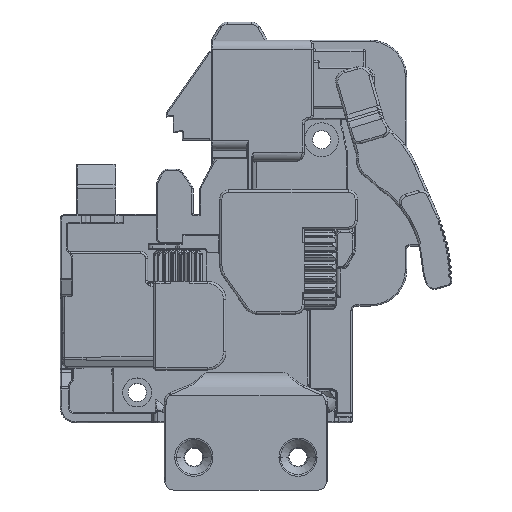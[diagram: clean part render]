
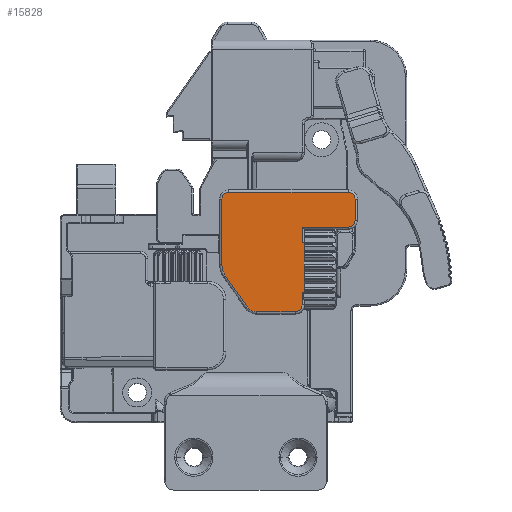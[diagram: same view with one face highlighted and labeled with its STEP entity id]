
A CAD part, top view. The second image highlights one B-rep face of the part: STEP entity #15828.
In plain terms, the highlighted planar face has unit normal (0, 0, 1).
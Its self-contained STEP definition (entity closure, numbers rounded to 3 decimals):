
#324 = CARTESIAN_POINT ( 'NONE',  ( 51.9, 44.2, 18.3 ) ) ;
#646 = CARTESIAN_POINT ( 'NONE',  ( 63.6, 44.2, 18.3 ) ) ;
#2804 = VERTEX_POINT ( 'NONE', #46445 ) ;
#3865 = AXIS2_PLACEMENT_3D ( 'NONE', #21544, #58885, #26938 ) ;
#4117 = EDGE_CURVE ( 'NONE', #28852, #48893, #52032, .T. ) ;
#4457 = DIRECTION ( 'NONE',  ( 0., -1., 0. ) ) ;
#5001 = CARTESIAN_POINT ( 'NONE',  ( 62.1, 44.2, 18.3 ) ) ;
#5032 = ORIENTED_EDGE ( 'NONE', *, *, #66872, .T. ) ;
#5303 = CARTESIAN_POINT ( 'NONE',  ( 34.2, 34.476, 18.3 ) ) ;
#6358 = CARTESIAN_POINT ( 'NONE',  ( 41.844, 24., 18.3 ) ) ;
#7007 = DIRECTION ( 'NONE',  ( 1., 0., 0. ) ) ;
#7495 = ORIENTED_EDGE ( 'NONE', *, *, #16617, .T. ) ;
#8703 = DIRECTION ( 'NONE',  ( 0.574, -0.819, 0. ) ) ;
#9606 = ORIENTED_EDGE ( 'NONE', *, *, #36229, .T. ) ;
#10038 = DIRECTION ( 'NONE',  ( 1., 0., 0. ) ) ;
#10274 = CARTESIAN_POINT ( 'NONE',  ( 62.1, 50.4, 18.3 ) ) ;
#12461 = EDGE_CURVE ( 'NONE', #48134, #2804, #65715, .T. ) ;
#12560 = CARTESIAN_POINT ( 'NONE',  ( 51.9, 28.301, 18.3 ) ) ;
#12738 = VERTEX_POINT ( 'NONE', #61855 ) ;
#12792 = DIRECTION ( 'NONE',  ( 1., 0., 0. ) ) ;
#13456 = VECTOR ( 'NONE', #30330, 1000. ) ;
#13492 = CARTESIAN_POINT ( 'NONE',  ( 63.6, 48.9, 18.3 ) ) ;
#13872 = VECTOR ( 'NONE', #53894, 1000. ) ;
#14232 = EDGE_CURVE ( 'NONE', #53457, #57295, #14526, .T. ) ;
#14526 = LINE ( 'NONE', #12560, #41309 ) ;
#15083 = VERTEX_POINT ( 'NONE', #34600 ) ;
#15093 = CARTESIAN_POINT ( 'NONE',  ( 51.9, 28.301, 18.3 ) ) ;
#15132 = LINE ( 'NONE', #40848, #13456 ) ;
#15525 = DIRECTION ( 'NONE',  ( -1., 0., 0. ) ) ;
#15828 = ADVANCED_FACE ( 'NONE', ( #47816 ), #37049, .T. ) ;
#15979 = CARTESIAN_POINT ( 'NONE',  ( 50.4, 24., 18.3 ) ) ;
#16511 = CARTESIAN_POINT ( 'NONE',  ( 35.7, 48.9, 18.3 ) ) ;
#16617 = EDGE_CURVE ( 'NONE', #25717, #37748, #17728, .T. ) ;
#17359 = VECTOR ( 'NONE', #10038, 1000. ) ;
#17728 = CIRCLE ( 'NONE', #3865, 1.5 ) ;
#17904 = AXIS2_PLACEMENT_3D ( 'NONE', #16511, #53893, #21881 ) ;
#18000 = DIRECTION ( 'NONE',  ( 0., 0., 1. ) ) ;
#18554 = AXIS2_PLACEMENT_3D ( 'NONE', #50026, #18000, #55374 ) ;
#19190 = ORIENTED_EDGE ( 'NONE', *, *, #14232, .T. ) ;
#19224 = EDGE_CURVE ( 'NONE', #64180, #28852, #37503, .T. ) ;
#19358 = EDGE_LOOP ( 'NONE', ( #9606, #36018, #30989, #5032, #26164, #49626, #22937, #43153, #26988, #66523, #45913, #61391, #63612, #50537, #7495, #30915, #19190 ) ) ;
#19535 = VECTOR ( 'NONE', #27796, 1000. ) ;
#19644 = CARTESIAN_POINT ( 'NONE',  ( 41.844, 26.5, 18.3 ) ) ;
#20791 = EDGE_CURVE ( 'NONE', #37748, #53457, #33189, .T. ) ;
#20911 = CARTESIAN_POINT ( 'NONE',  ( 50.138, 39.216, 18.3 ) ) ;
#21159 = VERTEX_POINT ( 'NONE', #40742 ) ;
#21166 = DIRECTION ( 'NONE',  ( 0., 0., 1. ) ) ;
#21544 = CARTESIAN_POINT ( 'NONE',  ( 50.4, 25.5, 18.3 ) ) ;
#21881 = DIRECTION ( 'NONE',  ( 1., 0., 0. ) ) ;
#22937 = ORIENTED_EDGE ( 'NONE', *, *, #50458, .T. ) ;
#23145 = CARTESIAN_POINT ( 'NONE',  ( 62.1, 42.7, 18.3 ) ) ;
#23293 = VECTOR ( 'NONE', #4457, 1000. ) ;
#23335 = AXIS2_PLACEMENT_3D ( 'NONE', #63742, #31811, #69134 ) ;
#24706 = VECTOR ( 'NONE', #58364, 1000. ) ;
#25015 = DIRECTION ( 'NONE',  ( 1., 0., 0. ) ) ;
#25561 = LINE ( 'NONE', #20911, #38133 ) ;
#25717 = VERTEX_POINT ( 'NONE', #15979 ) ;
#25776 = CARTESIAN_POINT ( 'NONE',  ( 34.2, 44.2, 18.3 ) ) ;
#26164 = ORIENTED_EDGE ( 'NONE', *, *, #66155, .T. ) ;
#26551 = VECTOR ( 'NONE', #8703, 1000. ) ;
#26938 = DIRECTION ( 'NONE',  ( 1., 0., 0. ) ) ;
#26988 = ORIENTED_EDGE ( 'NONE', *, *, #41448, .T. ) ;
#27796 = DIRECTION ( 'NONE',  ( 0., 1., 0. ) ) ;
#28852 = VERTEX_POINT ( 'NONE', #5303 ) ;
#30321 = VERTEX_POINT ( 'NONE', #6358 ) ;
#30330 = DIRECTION ( 'NONE',  ( 0., 1., 0. ) ) ;
#30694 = EDGE_CURVE ( 'NONE', #30321, #25717, #58262, .T. ) ;
#30915 = ORIENTED_EDGE ( 'NONE', *, *, #20791, .T. ) ;
#30989 = ORIENTED_EDGE ( 'NONE', *, *, #12461, .T. ) ;
#31197 = CARTESIAN_POINT ( 'NONE',  ( 62.1, 44.2, 18.3 ) ) ;
#31811 = DIRECTION ( 'NONE',  ( 0., 0., 1. ) ) ;
#31818 = AXIS2_PLACEMENT_3D ( 'NONE', #19644, #56996, #25015 ) ;
#32730 = CARTESIAN_POINT ( 'NONE',  ( 51.9, 25.5, 18.3 ) ) ;
#33189 = LINE ( 'NONE', #324, #13872 ) ;
#33219 = CARTESIAN_POINT ( 'NONE',  ( 52.4, 23.5, 18.3 ) ) ;
#33816 = LINE ( 'NONE', #33219, #19535 ) ;
#34600 = CARTESIAN_POINT ( 'NONE',  ( 39.796, 25.066, 18.3 ) ) ;
#35766 = CIRCLE ( 'NONE', #23335, 1.5 ) ;
#35793 = DIRECTION ( 'NONE',  ( 0., 1., 0. ) ) ;
#36018 = ORIENTED_EDGE ( 'NONE', *, *, #62869, .T. ) ;
#36229 = EDGE_CURVE ( 'NONE', #57295, #44711, #33816, .T. ) ;
#36586 = DIRECTION ( 'NONE',  ( 1., 0., 0. ) ) ;
#36677 = CARTESIAN_POINT ( 'NONE',  ( 62.1, 24., 18.3 ) ) ;
#37049 = PLANE ( 'NONE',  #59356 ) ;
#37301 = CARTESIAN_POINT ( 'NONE',  ( 35.7, 50.4, 18.3 ) ) ;
#37342 = VECTOR ( 'NONE', #35793, 1000. ) ;
#37503 = LINE ( 'NONE', #25776, #23293 ) ;
#37748 = VERTEX_POINT ( 'NONE', #32730 ) ;
#38133 = VECTOR ( 'NONE', #15525, 1000. ) ;
#38964 = LINE ( 'NONE', #10274, #24706 ) ;
#39233 = LINE ( 'NONE', #23145, #65906 ) ;
#40742 = CARTESIAN_POINT ( 'NONE',  ( 62.1, 50.4, 18.3 ) ) ;
#40848 = CARTESIAN_POINT ( 'NONE',  ( 63.6, 44.2, 18.3 ) ) ;
#41309 = VECTOR ( 'NONE', #12792, 1000. ) ;
#41448 = EDGE_CURVE ( 'NONE', #59161, #64180, #62020, .T. ) ;
#42173 = EDGE_CURVE ( 'NONE', #15083, #30321, #67783, .T. ) ;
#43153 = ORIENTED_EDGE ( 'NONE', *, *, #52927, .T. ) ;
#44349 = CIRCLE ( 'NONE', #45238, 1.5 ) ;
#44711 = VERTEX_POINT ( 'NONE', #64836 ) ;
#45238 = AXIS2_PLACEMENT_3D ( 'NONE', #31197, #68521, #36586 ) ;
#45428 = VERTEX_POINT ( 'NONE', #13492 ) ;
#45913 = ORIENTED_EDGE ( 'NONE', *, *, #4117, .T. ) ;
#46445 = CARTESIAN_POINT ( 'NONE',  ( 51.9, 42.7, 18.3 ) ) ;
#47125 = CARTESIAN_POINT ( 'NONE',  ( 34.2, 48.9, 18.3 ) ) ;
#47816 = FACE_OUTER_BOUND ( 'NONE', #19358, .T. ) ;
#48051 = CARTESIAN_POINT ( 'NONE',  ( 51.9, 39.216, 18.3 ) ) ;
#48134 = VERTEX_POINT ( 'NONE', #48051 ) ;
#48893 = VERTEX_POINT ( 'NONE', #57217 ) ;
#49133 = VERTEX_POINT ( 'NONE', #646 ) ;
#49626 = ORIENTED_EDGE ( 'NONE', *, *, #65446, .T. ) ;
#50026 = CARTESIAN_POINT ( 'NONE',  ( 38.7, 34.476, 18.3 ) ) ;
#50458 = EDGE_CURVE ( 'NONE', #45428, #21159, #35766, .T. ) ;
#50537 = ORIENTED_EDGE ( 'NONE', *, *, #30694, .T. ) ;
#52032 = CIRCLE ( 'NONE', #18554, 4.5 ) ;
#52927 = EDGE_CURVE ( 'NONE', #21159, #59161, #38964, .T. ) ;
#53457 = VERTEX_POINT ( 'NONE', #15093 ) ;
#53893 = DIRECTION ( 'NONE',  ( 0., 0., 1. ) ) ;
#53894 = DIRECTION ( 'NONE',  ( 0., 1., 0. ) ) ;
#54970 = LINE ( 'NONE', #55910, #26551 ) ;
#55374 = DIRECTION ( 'NONE',  ( 1., 0., 0. ) ) ;
#55910 = CARTESIAN_POINT ( 'NONE',  ( 38.144, 27.426, 18.3 ) ) ;
#56996 = DIRECTION ( 'NONE',  ( 0., 0., 1. ) ) ;
#57217 = CARTESIAN_POINT ( 'NONE',  ( 35.014, 31.895, 18.3 ) ) ;
#57295 = VERTEX_POINT ( 'NONE', #66120 ) ;
#58262 = LINE ( 'NONE', #36677, #17359 ) ;
#58364 = DIRECTION ( 'NONE',  ( -1., 0., 0. ) ) ;
#58513 = DIRECTION ( 'NONE',  ( 1., 0., 0. ) ) ;
#58885 = DIRECTION ( 'NONE',  ( 0., 0., 1. ) ) ;
#59161 = VERTEX_POINT ( 'NONE', #37301 ) ;
#59356 = AXIS2_PLACEMENT_3D ( 'NONE', #5001, #21166, #58513 ) ;
#61391 = ORIENTED_EDGE ( 'NONE', *, *, #67917, .T. ) ;
#61855 = CARTESIAN_POINT ( 'NONE',  ( 62.1, 42.7, 18.3 ) ) ;
#62020 = CIRCLE ( 'NONE', #17904, 1.5 ) ;
#62869 = EDGE_CURVE ( 'NONE', #44711, #48134, #25561, .T. ) ;
#63612 = ORIENTED_EDGE ( 'NONE', *, *, #42173, .T. ) ;
#63742 = CARTESIAN_POINT ( 'NONE',  ( 62.1, 48.9, 18.3 ) ) ;
#64180 = VERTEX_POINT ( 'NONE', #47125 ) ;
#64836 = CARTESIAN_POINT ( 'NONE',  ( 52.4, 39.216, 18.3 ) ) ;
#65446 = EDGE_CURVE ( 'NONE', #49133, #45428, #15132, .T. ) ;
#65715 = LINE ( 'NONE', #67731, #37342 ) ;
#65906 = VECTOR ( 'NONE', #7007, 1000. ) ;
#66120 = CARTESIAN_POINT ( 'NONE',  ( 52.4, 28.301, 18.3 ) ) ;
#66155 = EDGE_CURVE ( 'NONE', #12738, #49133, #44349, .T. ) ;
#66523 = ORIENTED_EDGE ( 'NONE', *, *, #19224, .T. ) ;
#66872 = EDGE_CURVE ( 'NONE', #2804, #12738, #39233, .T. ) ;
#67731 = CARTESIAN_POINT ( 'NONE',  ( 51.9, 44.2, 18.3 ) ) ;
#67783 = CIRCLE ( 'NONE', #31818, 2.5 ) ;
#67917 = EDGE_CURVE ( 'NONE', #48893, #15083, #54970, .T. ) ;
#68521 = DIRECTION ( 'NONE',  ( 0., 0., 1. ) ) ;
#69134 = DIRECTION ( 'NONE',  ( 1., 0., 0. ) ) ;
